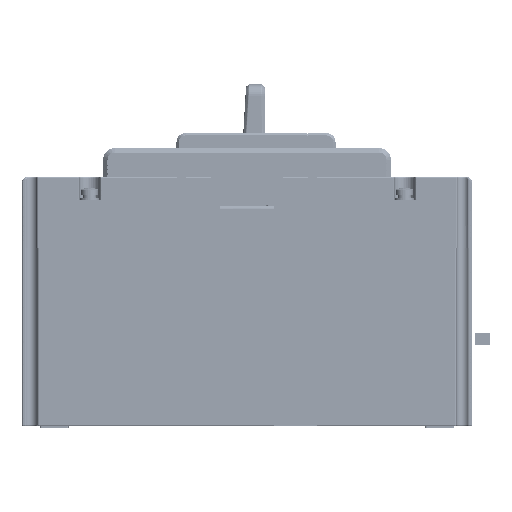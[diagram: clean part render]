
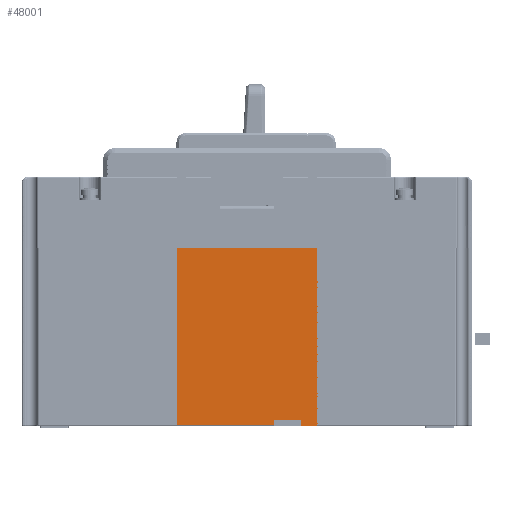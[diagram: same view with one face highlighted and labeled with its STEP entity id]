
A CAD part, left-side view. The second image highlights one B-rep face of the part: STEP entity #48001.
In plain terms, the highlighted planar face has unit normal (-1, 0, 0).
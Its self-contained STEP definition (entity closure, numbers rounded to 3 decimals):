
#2313=DIRECTION('',(0.,-1.,0.));
#2314=VECTOR('',#2313,32.5);
#2315=CARTESIAN_POINT('',(0.5,98.5,1.));
#2316=LINE('',#2315,#2314);
#2321=DIRECTION('',(0.,0.,1.));
#2322=VECTOR('',#2321,59.);
#2323=CARTESIAN_POINT('',(0.5,98.5,1.));
#2324=LINE('',#2323,#2322);
#2325=DIRECTION('',(0.,-1.,0.));
#2326=VECTOR('',#2325,47.);
#2327=CARTESIAN_POINT('',(0.5,98.5,60.));
#2328=LINE('',#2327,#2326);
#2329=DIRECTION('',(0.,0.,-1.));
#2330=VECTOR('',#2329,1.5);
#2331=CARTESIAN_POINT('',(0.5,66.,2.5));
#2332=LINE('',#2331,#2330);
#5746=DIRECTION('',(0.,-1.,0.));
#5747=VECTOR('',#5746,5.5);
#5748=CARTESIAN_POINT('',(0.5,57.,0.5));
#5749=LINE('',#5748,#5747);
#6110=DIRECTION('',(0.,0.,-1.));
#6111=VECTOR('',#6110,2.);
#6112=CARTESIAN_POINT('',(0.5,57.,2.5));
#6113=LINE('',#6112,#6111);
#20927=DIRECTION('',(0.,0.,1.));
#20928=VECTOR('',#20927,59.5);
#20929=CARTESIAN_POINT('',(0.5,51.5,0.5));
#20930=LINE('',#20929,#20928);
#30033=DIRECTION('',(0.,-1.,0.));
#30034=VECTOR('',#30033,9.);
#30035=CARTESIAN_POINT('',(0.5,66.,2.5));
#30036=LINE('',#30035,#30034);
#35962=CARTESIAN_POINT('',(0.5,57.,0.5));
#35963=VERTEX_POINT('',#35962);
#35964=CARTESIAN_POINT('',(0.5,51.5,0.5));
#35965=VERTEX_POINT('',#35964);
#37186=CARTESIAN_POINT('',(0.5,51.5,60.));
#37187=VERTEX_POINT('',#37186);
#37188=CARTESIAN_POINT('',(0.5,98.5,60.));
#37189=VERTEX_POINT('',#37188);
#43045=CARTESIAN_POINT('',(0.5,98.5,1.));
#43046=CARTESIAN_POINT('',(0.5,66.,1.));
#43047=VERTEX_POINT('',#43045);
#43048=VERTEX_POINT('',#43046);
#43049=CARTESIAN_POINT('',(0.5,57.,2.5));
#43050=VERTEX_POINT('',#43049);
#43051=CARTESIAN_POINT('',(0.5,66.,2.5));
#43052=VERTEX_POINT('',#43051);
#47980=CARTESIAN_POINT('',(0.5,51.5,60.));
#47981=DIRECTION('',(1.,0.,0.));
#47982=DIRECTION('',(0.,1.,0.));
#47983=AXIS2_PLACEMENT_3D('',#47980,#47981,#47982);
#47984=PLANE('',#47983);
#47985=ORIENTED_EDGE('',*,*,#47971,.F.);
#47987=ORIENTED_EDGE('',*,*,#47986,.T.);
#47989=ORIENTED_EDGE('',*,*,#47988,.T.);
#47991=ORIENTED_EDGE('',*,*,#47990,.F.);
#47993=ORIENTED_EDGE('',*,*,#47992,.F.);
#47995=ORIENTED_EDGE('',*,*,#47994,.F.);
#47997=ORIENTED_EDGE('',*,*,#47996,.F.);
#47998=ORIENTED_EDGE('',*,*,#47948,.T.);
#47999=EDGE_LOOP('',(#47985,#47987,#47989,#47991,#47993,#47995,#47997,#47998));
#48000=FACE_OUTER_BOUND('',#47999,.F.);
#48001=ADVANCED_FACE('',(#48000),#47984,.F.);
#47948=EDGE_CURVE('',#43052,#43048,#2332,.T.);
#47971=EDGE_CURVE('',#43047,#43048,#2316,.T.);
#47986=EDGE_CURVE('',#43047,#37189,#2324,.T.);
#47988=EDGE_CURVE('',#37189,#37187,#2328,.T.);
#47990=EDGE_CURVE('',#35965,#37187,#20930,.T.);
#47992=EDGE_CURVE('',#35963,#35965,#5749,.T.);
#47994=EDGE_CURVE('',#43050,#35963,#6113,.T.);
#47996=EDGE_CURVE('',#43052,#43050,#30036,.T.);
